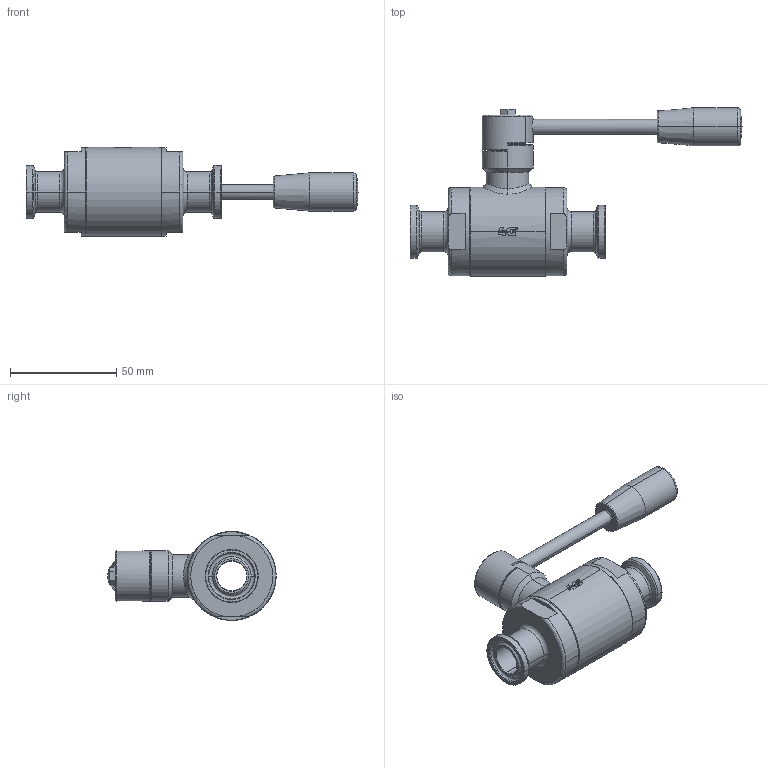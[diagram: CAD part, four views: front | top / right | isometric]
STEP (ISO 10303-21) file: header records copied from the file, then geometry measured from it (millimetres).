
FILE_DESCRIPTION((''),'2;1');
FILE_NAME('13013061710_SW0002','2025-04-09T14:59:53',('alfio.taboni'),('CDM Tecnoconsulting'),'CREO PARAMETRIC BY PTC INC, 2024063','CREO PARAMETRIC BY PTC INC, 2024063','');
FILE_SCHEMA(('CONFIG_CONTROL_DESIGN','SHAPE_APPEARANCE_LAYERS_GROUPS'));
Length unit declared in the file: millimetre
Products named in the file (1): 13013061710_SW0002
Bounding box: 156.5 x 79.45 x 42 mm (x, y, z)
Volume: 97133.9 mm3; surface area: 30342.3 mm2
Topology: 1 solids, 1 shells, 741 faces, 1989 edges, 1265 vertices
Faces by surface type: plane 312, extrusion 150, cylinder 109, cone 84, torus 50, bspline 24, sphere 12
Entity records: 38929 total; most frequent: CARTESIAN_POINT 12803, ORIENTED_EDGE 3942, DIRECTION 3208, PRESENTATION_STYLE_ASSIGNMENT 2367, STYLED_ITEM 2066, CURVE_STYLE 2065, EDGE_CURVE 1971, VERTEX_POINT 1265
